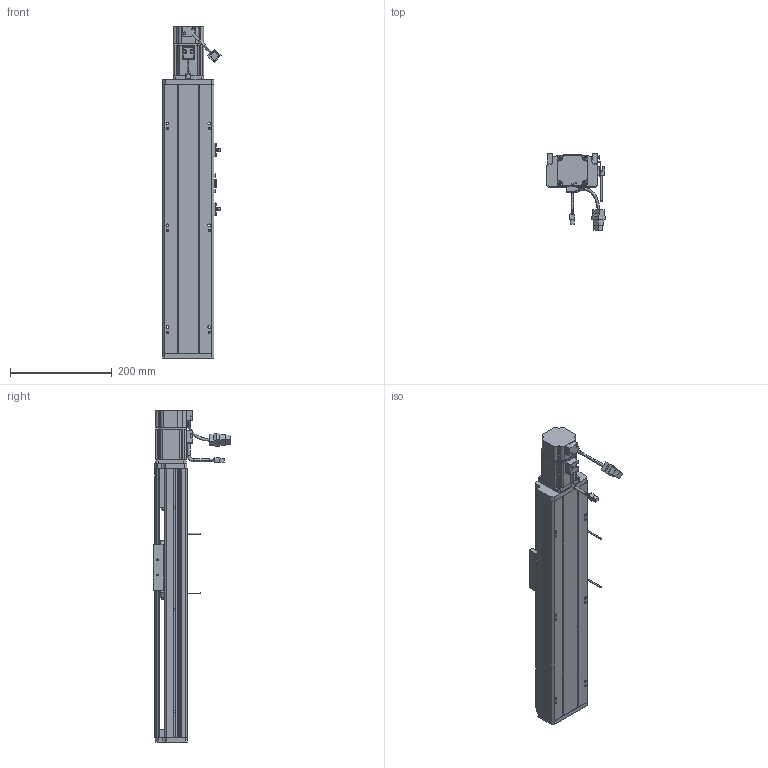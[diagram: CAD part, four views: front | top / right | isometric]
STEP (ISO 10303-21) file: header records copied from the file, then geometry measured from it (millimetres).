
FILE_DESCRIPTION (( 'STEP AP214' ), '1' );
FILE_NAME ('CTH10-300.STEP', '2019-11-18T08:30:31', ( '微软用户' ), ( '微软中国' ), 'SwSTEP 2.0', 'SolidWorks 2017', '' );
FILE_SCHEMA (( 'AUTOMOTIVE_DESIGN' ));
Length unit declared in the file: millimetre
Products named in the file (34): CTH10-300; CTH10-底座_默认<按加工>; CTH10-移动座_默认<按加工>; CTH10-蹟簽蟀諉啣; CTH10-盓傅釱; CTH10-傷啣; CTH10-侜督萇儂啣; SFH1605-288; BEARING_BaseModel20190604090351; SFH1605; CTH10-盖板_默认<按加工>; 怢湛200W侜督萇儂ECMA-CX0602ES; CTH10-粣創釱; 粣創揤啣; 7001-DF; COL12B-粣遠; 坶踡蹟譫; M4-L8囀鞠褒蹟佪; M3-L10囀鞠褒蹟佪; CTH10粣創釱蚾饜极; M5-L20囀鞠褒蹟佪; 遣喳蝶15x12x8; 6000Z粣創; M4-L6半圆头内六角螺丝; EE-SX672; M3-L8囀鞠褒蹟佪; 100耀郪-覜茼んえ; MGN12C; MGN12C-R1; MGN12C-2R420-Z0CHC; 噩砃M3-L10囀鞠褒蹟佪; 噩砃MGN12C; 噩砃MGN12C-R1; 噩砃MGN12C-2R420-Z0CHC
Assembly tree (100 placements, depth 4):
  CTH10-300
    CTH10-底座_默认<按加工>
    CTH10-移动座_默认<按加工>
    CTH10-蹟簽蟀諉啣
    CTH10-盓傅釱
    CTH10-傷啣
    CTH10-侜督萇儂啣
    SFH1605-288
    SFH1605
    CTH10-盖板_默认<按加工>
    怢湛200W侜督萇儂ECMA-CX0602ES
    CTH10粣創釱蚾饜极
      CTH10-粣創釱
      7001-DF
        BEARING_BaseModel20190604090351  x2
      粣創揤啣
      COL12B-粣遠  x2
      坶踡蹟譫
      M4-L8囀鞠褒蹟佪  x4
      M3-L10囀鞠褒蹟佪  x6
    M3-L10囀鞠褒蹟佪  x19
    M5-L20囀鞠褒蹟佪  x4
    遣喳蝶15x12x8  x3
    6000Z粣創
    M4-L6半圆头内六角螺丝  x4
    M4-L8囀鞠褒蹟佪  x8
    EE-SX672  x2
    M3-L8囀鞠褒蹟佪  x4
    100耀郪-覜茼んえ
    MGN12C-2R420-Z0CHC
      MGN12C
      MGN12C-R1  x2
      M3-L10囀鞠褒蹟佪  x8
    噩砃M3-L10囀鞠褒蹟佪
    噩砃MGN12C-2R420-Z0CHC
      噩砃MGN12C
      噩砃MGN12C-R1  x2
      噩砃M3-L10囀鞠褒蹟佪  x8
Bounding box: 114.24 x 151.37 x 652 mm (x, y, z)
Volume: 1859757 mm3; surface area: 658215.1 mm2
Topology: 96 solids, 105 shells, 4409 faces, 11022 edges, 6858 vertices
Faces by surface type: plane 2282, cylinder 1240, cone 601, bspline 241, torus 33, sphere 12
Entity records: 88894 total; most frequent: CARTESIAN_POINT 27222, ORIENTED_EDGE 12548, DIRECTION 11917, EDGE_CURVE 6274, AXIS2_PLACEMENT_3D 4178, VERTEX_POINT 4072, LINE 3561, VECTOR 3561
